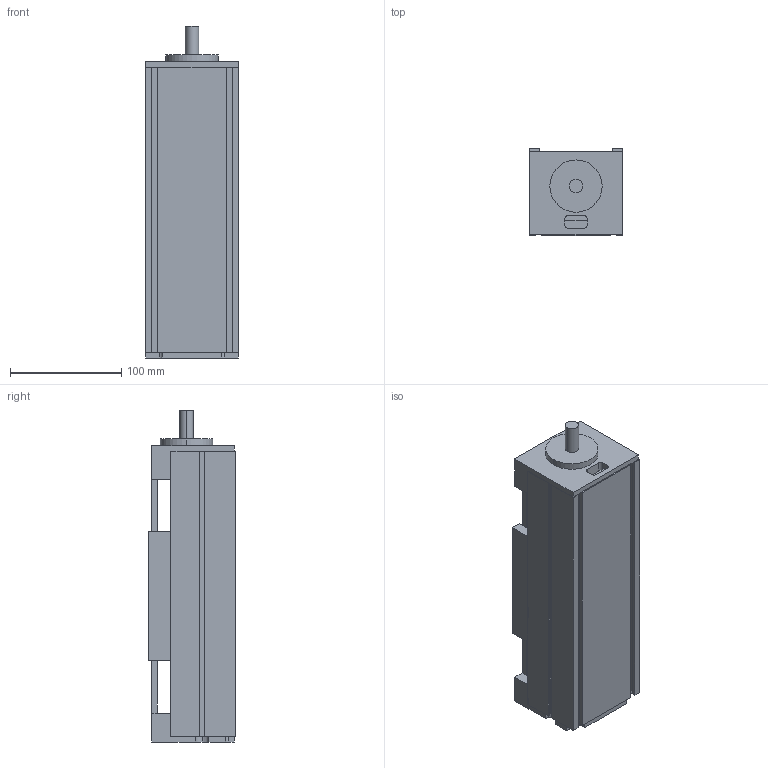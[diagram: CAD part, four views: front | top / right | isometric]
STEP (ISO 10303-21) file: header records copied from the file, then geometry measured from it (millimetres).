
FILE_DESCRIPTION (( 'STEP AP203' ), '1' );
FILE_NAME ('MSX84C-100-LL2010-P7标准面板.STEP', '2013-11-02T03:15:41', ( '微软用户' ), ( '微软中国' ), 'SwSTEP 2.0', 'SolidWorks 2010', '' );
FILE_SCHEMA (( 'CONFIG_CONTROL_DESIGN' ));
Length unit declared in the file: millimetre
Products named in the file (1): MSX84C-100-LL2010-P7梓袧醱啣
Bounding box: 84 x 78 x 298 mm (x, y, z)
Volume: 1027378.3 mm3; surface area: 240867.5 mm2
Topology: 3 solids, 3 shells, 176 faces, 489 edges, 306 vertices
Faces by surface type: plane 128, cylinder 32, cone 16
Entity records: 5506 total; most frequent: CARTESIAN_POINT 956, ORIENTED_EDGE 946, DIRECTION 891, EDGE_CURVE 473, LINE 409, VECTOR 409, VERTEX_POINT 306, AXIS2_PLACEMENT_3D 241
